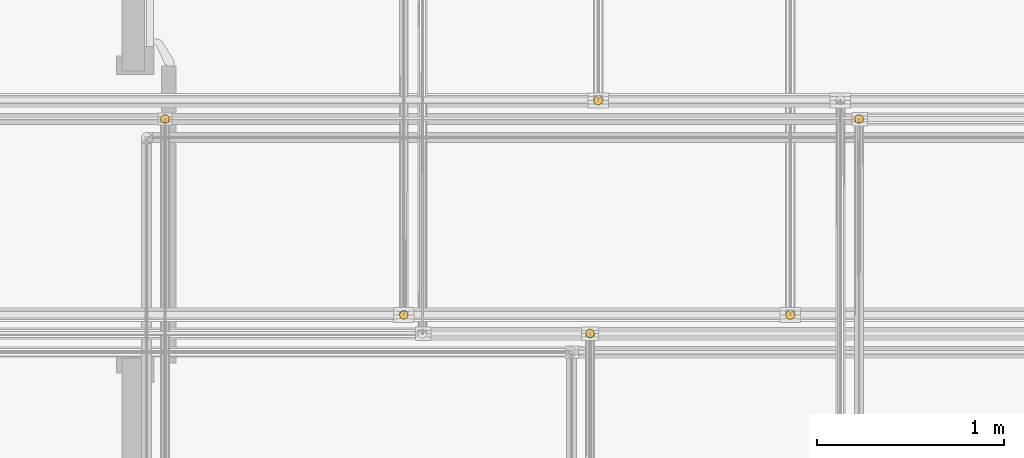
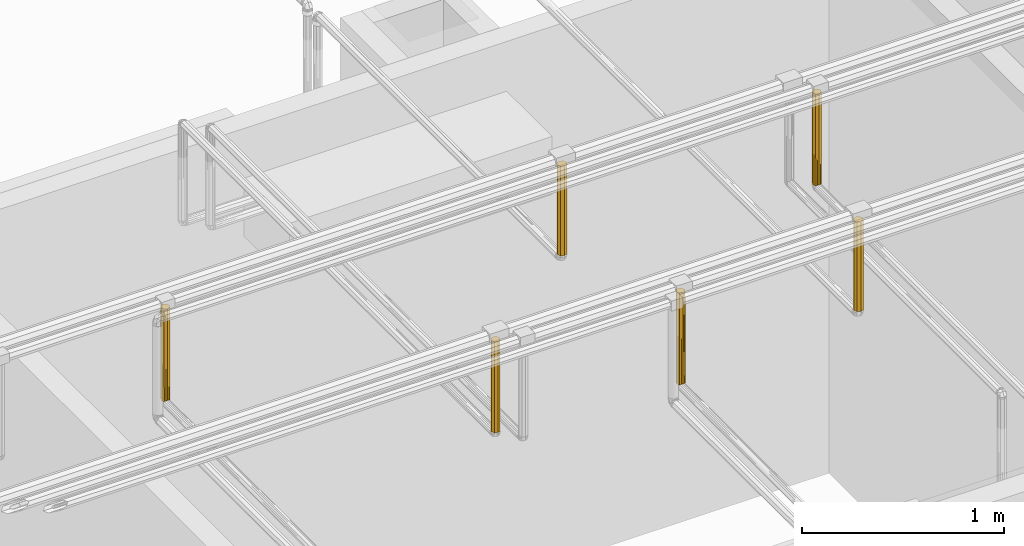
# One storey, part 168 of 652: 6 coverings.
"""IFC2X3 building model written with IfcOpenShell, lengths in millimetres."""

from ifc_helpers import new_model, entity, si_unit, converted_unit, direction, frame, origin, place, context, subcontext, project, spatial, faceted_brep, material, type_object, element, save


model = new_model("IFC2X3")

# Units and contexts
model_context = context("Model", 3, precision=0.01, world=frame((0.0, 0.0, 308426.39999999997)), true_north=direction((6.123233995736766e-17, 1.0)))
plan_context = context("Plan", 3, precision=0.01, world=frame((0.0, 0.0, 308426.39999999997)), true_north=direction((6.123233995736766e-17, 1.0)))
body_context = subcontext(model_context, "Body", "Model", "MODEL_VIEW")
ifc_project = project(units=[si_unit("LENGTHUNIT", "METRE", prefix="MILLI"), si_unit("AREAUNIT", "SQUARE_METRE"), si_unit("VOLUMEUNIT", "CUBIC_METRE"), converted_unit("PLANEANGLEUNIT", "DEGREE", entity("IfcPlaneAngleMeasure", 0.017453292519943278), si_unit("PLANEANGLEUNIT", "RADIAN"), dimensions=[0, 0, 0, 0, 0, 0, 0])], contexts=[model_context, plan_context])

# Site, building, storey
site_placement = place(None, origin())
site = spatial("IfcSite", under=ifc_project, at=site_placement, Name="Default", CompositionType="ELEMENT")
building_placement = place(site_placement, origin())
building = spatial("IfcBuilding", under=site, at=building_placement, CompositionType="ELEMENT")
storey_placement = place(building_placement, frame((0.0, 0.0, 1730.6999999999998)))
storey = spatial("IfcBuildingStorey", under=building, at=storey_placement, Name="EG_Produktion_FFB", CompositionType="ELEMENT", Elevation=1730.6999999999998)

# Coverings
ifc_material = material(Name="Dämmung - Armaflex-Schlauch")
covering_type = type_object("IfcCoveringType", Name="Rohrdämmung außen:Armaflex-Schlauch", PredefinedType="INSULATION")
covering_1_placement = place(storey_placement, frame((25784.642227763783, 60974.64222776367, 3316.3549777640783)))
element("IfcCovering", 1, at=covering_1_placement, inside=storey, type_object=covering_type, material=ifc_material, Name="Rohrdämmung außen:Armaflex-Schlauch", ObjectType="Rohrdämmung außen:Armaflex-Schlauch", PredefinedType="INSULATION", context=body_context, shape_type="Brep", body=[
    faceted_brep([(43.90036590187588, 12.755803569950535, 559.623472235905), (45.64033467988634, 16.956459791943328, 559.623472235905), (47.23325303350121, 20.80210488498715, 559.623472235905), (49.12027223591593, 25.35777223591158, 559.623472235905), (47.23325303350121, 29.913439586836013, 559.623472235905), (45.64033467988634, 33.759084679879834, 559.623472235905), (43.90036590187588, 37.95974090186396, 559.623472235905), (42.16039712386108, 42.160397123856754, 559.623472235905), (37.95974090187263, 43.90036590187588, 559.623472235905), (33.759084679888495, 45.64033467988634, 559.623472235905), (29.913439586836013, 47.233253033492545, 559.623472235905), (25.357772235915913, 49.12027223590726, 559.623472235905), (20.80210488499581, 47.23325303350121, 559.623472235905), (16.956459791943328, 45.64033467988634, 559.623472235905), (12.755803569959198, 43.90036590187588, 559.623472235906), (8.55514734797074, 42.160397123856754, 559.623472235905), (6.815178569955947, 37.95974090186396, 559.623472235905), (5.0752097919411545, 33.759084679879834, 559.623472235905), (3.482291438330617, 29.913439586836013, 559.623472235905), (1.5952722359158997, 25.35777223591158, 559.623472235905), (3.3352410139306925, 21.157116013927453, 559.623472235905), (5.075209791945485, 16.956459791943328, 559.623472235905), (6.815178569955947, 12.755803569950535, 559.623472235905), (8.55514734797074, 8.55514734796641, 559.623472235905), (12.755803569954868, 6.815178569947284, 559.623472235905), (16.956459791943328, 5.075209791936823, 559.6234722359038), (21.157116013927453, 3.3352410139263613, 559.623472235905), (25.357772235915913, 1.5952722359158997, 559.623472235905), (29.55842845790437, 3.3352410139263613, 559.623472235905), (33.759084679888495, 5.075209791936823, 559.623472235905), (37.95974090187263, 6.815178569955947, 559.623472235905), (42.16039712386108, 8.55514734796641, 559.623472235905), (25.357772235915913, 49.12027223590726, 1.595272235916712), (29.913439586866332, 47.233253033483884, 1.595272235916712), (34.46910693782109, 45.3462338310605, 1.595272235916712), (38.31475203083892, 43.753315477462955, 1.595272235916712), (42.16039712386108, 42.160397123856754, 1.595272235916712), (43.90036590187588, 37.95974090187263, 1.595272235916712), (45.64033467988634, 33.759084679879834, 1.595272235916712), (47.38030345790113, 29.558428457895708, 1.595272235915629), (49.12027223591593, 25.35777223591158, 1.595272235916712), (48.04709335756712, 20.42323069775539, 1.595272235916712), (46.97391447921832, 15.488689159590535, 1.595272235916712), (43.951164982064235, 11.448105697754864, 1.595272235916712), (40.92841548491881, 7.407522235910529, 1.595272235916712), (9.787128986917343, 7.407522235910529, 1.595272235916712), (6.764379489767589, 11.4481056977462, 1.595272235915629), (3.7416299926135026, 15.488689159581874, 1.595272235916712), (2.6684511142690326, 20.423230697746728, 1.595272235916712), (1.5952722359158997, 25.35777223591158, 1.595272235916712), (3.482291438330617, 29.913439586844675, 1.595272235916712), (5.369310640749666, 34.469106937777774, 1.595272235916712), (6.962228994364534, 38.314752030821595, 1.595272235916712), (8.55514734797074, 42.160397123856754, 1.595272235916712), (12.755803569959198, 43.90036590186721, 1.595272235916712), (16.956459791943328, 45.64033467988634, 1.595272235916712), (21.157116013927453, 47.3803034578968, 1.595272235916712), (17.047730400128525, 3.095705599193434, 5.907088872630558), (13.417429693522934, 5.251613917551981, 3.7511805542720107), (21.20275131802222, 2.345488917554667, 6.657305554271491), (25.357772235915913, 1.5952722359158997, 7.407522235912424), (29.512793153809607, 2.345488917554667, 6.657305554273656), (33.6678140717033, 3.095705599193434, 5.907088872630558), (37.29811477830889, 5.251613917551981, 3.7511805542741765)], [[[0, 1, 2, 3, 4, 5, 6, 7, 8, 9, 10, 11, 12, 13, 14, 15, 16, 17, 18, 19, 20, 21, 22, 23, 24, 25, 26, 27, 28, 29, 30, 31]], [[32, 33, 34, 35, 36, 37, 38, 39, 40, 41, 42, 43, 44, 45, 46, 47, 48, 49, 50, 51, 52, 53, 54, 55, 56]], [[49, 20, 19]], [[25, 57, 26]], [[20, 49, 48]], [[48, 21, 20]], [[45, 23, 46]], [[24, 45, 58]], [[58, 57, 25]], [[59, 60, 27]], [[47, 46, 22]], [[46, 23, 22]], [[47, 22, 21]], [[26, 57, 59]], [[23, 45, 24]], [[48, 47, 21]], [[58, 25, 24]], [[59, 27, 26]], [[60, 61, 27]], [[41, 40, 2]], [[28, 61, 62]], [[42, 0, 43]], [[63, 29, 62]], [[31, 44, 43]], [[42, 41, 1]], [[1, 41, 2]], [[27, 61, 28]], [[43, 0, 31]], [[40, 3, 2]], [[42, 1, 0]], [[29, 63, 30]], [[44, 30, 63]], [[28, 62, 29]], [[30, 44, 31]], [[11, 10, 9, 8, 7, 36, 35, 34, 33, 32]], [[6, 5, 4, 3, 40, 39, 38, 37, 36, 7]], [[19, 18, 17, 16, 15, 53, 52, 51, 50, 49]], [[14, 13, 12, 11, 32, 56, 55, 54, 53, 15]], [[44, 63, 62, 61, 60, 59, 57, 58, 45]]]),
])
covering_2_placement = place(storey_placement, frame((29135.013224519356, 59923.05472775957, 3323.371727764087)))
element("IfcCovering", 2, at=covering_2_placement, inside=storey, type_object=covering_type, material=ifc_material, Name="Rohrdämmung außen:Armaflex-Schlauch", ObjectType="Rohrdämmung außen:Armaflex-Schlauch", PredefinedType="INSULATION", context=body_context, shape_type="Brep", body=[
    faceted_brep([(52.29527223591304, 26.94527223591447, 542.5038722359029), (50.150222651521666, 32.12388003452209, 542.5038722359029), (48.58285068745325, 35.90785068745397, 542.5038722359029), (46.7266399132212, 40.38913991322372, 542.5038722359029), (44.87042913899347, 44.87042913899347, 542.5038722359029), (40.38913991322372, 46.72663991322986, 542.5038722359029), (35.90785068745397, 48.582850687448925, 542.5038722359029), (31.42656146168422, 50.43906146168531, 542.5038722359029), (26.94527223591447, 52.29527223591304, 542.5038722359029), (22.463983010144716, 50.43906146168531, 542.5038722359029), (17.982693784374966, 48.582850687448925, 542.5038722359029), (13.501404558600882, 46.7266399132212, 542.5038722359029), (9.020115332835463, 44.87042913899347, 542.5038722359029), (7.163904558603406, 40.38913991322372, 542.5038722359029), (5.307693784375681, 35.90785068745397, 542.5038722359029), (3.4514830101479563, 31.42656146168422, 542.5038722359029), (1.5952722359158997, 26.94527223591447, 542.5038722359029), (3.7403217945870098, 21.766664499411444, 542.5038722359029), (5.307693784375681, 17.982693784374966, 542.5038722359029), (7.163904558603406, 13.501404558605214, 542.5038722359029), (9.020115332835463, 9.020115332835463, 542.5038722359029), (13.501404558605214, 7.1639045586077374, 542.5038722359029), (17.982693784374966, 5.307693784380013, 542.5038722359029), (22.463983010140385, 3.4514830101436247, 542.5038722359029), (26.94527223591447, 1.5952722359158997, 542.5038722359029), (32.12387997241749, 3.7403217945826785, 542.5038722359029), (35.90785068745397, 5.307693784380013, 542.5038722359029), (40.38913991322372, 7.1639045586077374, 542.5038722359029), (44.87042913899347, 9.020115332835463, 542.5038722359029), (46.7266399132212, 13.501404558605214, 542.5038722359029), (48.58285068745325, 17.982693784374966, 542.5038722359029), (50.43906146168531, 22.463983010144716, 542.5038722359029), (31.33519376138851, 51.91227223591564, 1.595272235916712), (38.84516070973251, 47.5816860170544, 1.595272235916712), (46.355127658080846, 43.251099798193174, 1.595272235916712), (48.437184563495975, 37.53580778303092, 1.595272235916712), (50.366228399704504, 32.240540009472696, 1.595272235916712), (52.29527223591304, 26.94527223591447, 1.595272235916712), (50.15022267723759, 21.76666449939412, 1.595272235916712), (48.005173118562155, 16.588056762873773, 1.595272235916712), (44.87042913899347, 9.020115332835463, 1.595272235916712), (40.38913991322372, 7.1639045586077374, 1.595272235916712), (35.90785068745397, 5.307693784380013, 1.595272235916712), (31.42656146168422, 3.4514830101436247, 1.595272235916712), (26.94527223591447, 1.5952722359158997, 1.595272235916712), (21.766664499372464, 3.7403217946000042, 1.595272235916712), (16.588056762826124, 5.885371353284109, 1.595272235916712), (9.020115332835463, 9.020115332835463, 1.595272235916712), (7.1639045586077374, 13.501404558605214, 1.595272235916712), (5.307693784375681, 17.982693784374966, 1.595272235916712), (3.4514830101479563, 22.463983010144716, 1.595272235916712), (1.5952722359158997, 26.94527223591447, 1.595272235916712), (3.524316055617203, 32.240539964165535, 1.595272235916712), (4.565344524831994, 35.09818601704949, 1.595272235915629), (6.050380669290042, 39.17464290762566, 1.595272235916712), (7.535416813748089, 43.251099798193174, 1.595272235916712), (15.045383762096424, 47.5816860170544, 1.595272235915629), (22.55535071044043, 51.91227223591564, 1.595272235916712), (29.148570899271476, 52.19934072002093, 1.8823407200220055), (26.94527223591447, 52.29527223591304, 1.978272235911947), (24.74197357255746, 52.19934072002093, 1.8823407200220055)], [[[0, 1, 2, 3, 4, 5, 6, 7, 8, 9, 10, 11, 12, 13, 14, 15, 16, 17, 18, 19, 20, 21, 22, 23, 24, 25, 26, 27, 28, 29, 30, 31]], [[32, 33, 34, 35, 36, 37, 38, 39, 40, 41, 42, 43, 44, 45, 46, 47, 48, 49, 50, 51, 52, 53, 54, 55, 56, 57]], [[3, 2, 35]], [[35, 2, 36]], [[36, 2, 1, 0]], [[58, 7, 32]], [[33, 32, 6]], [[35, 34, 3]], [[8, 58, 59]], [[33, 6, 5, 4]], [[7, 6, 32]], [[34, 4, 3]], [[33, 4, 34]], [[36, 0, 37]], [[7, 58, 8]], [[57, 10, 9]], [[54, 53, 14]], [[9, 60, 57]], [[10, 57, 56]], [[54, 14, 13]], [[51, 16, 15]], [[53, 15, 14]], [[13, 55, 54]], [[56, 12, 11, 10]], [[15, 53, 52, 51]], [[60, 8, 59]], [[12, 56, 55]], [[12, 55, 13]], [[8, 60, 9]], [[44, 24, 23, 22, 21, 20, 47, 46, 45]], [[19, 18, 17, 16, 51, 50, 49, 48, 47, 20]], [[37, 0, 31, 30, 29, 28, 40, 39, 38]], [[27, 26, 25, 24, 44, 43, 42, 41, 40, 28]], [[57, 60, 59, 58, 32]]]),
])
covering_3_placement = place(storey_placement, frame((28063.320549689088, 59824.6422277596, 3316.3549777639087)))
element("IfcCovering", 3, at=covering_3_placement, inside=storey, type_object=covering_type, material=ifc_material, Name="Rohrdämmung außen:Armaflex-Schlauch", ObjectType="Rohrdämmung außen:Armaflex-Schlauch", PredefinedType="INSULATION", context=body_context, shape_type="Brep", body=[
    faceted_brep([(43.90036590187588, 12.755803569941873, 555.508672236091), (45.64033467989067, 16.956459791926, 555.508672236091), (47.21923512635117, 20.76826266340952, 555.5086722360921), (49.12027223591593, 25.357772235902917, 555.5086722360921), (47.21923512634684, 29.947281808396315, 555.5086722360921), (45.64033467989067, 33.759084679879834, 555.5086722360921), (43.900365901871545, 37.9597409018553, 555.5086722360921), (42.16039712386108, 42.16039712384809, 555.5086722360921), (37.95974090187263, 43.90036590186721, 555.5086722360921), (33.759084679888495, 45.640334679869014, 555.5086722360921), (29.94728180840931, 47.21923512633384, 555.5086722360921), (25.357772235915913, 49.1202722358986, 555.5086722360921), (20.768262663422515, 47.21923512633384, 555.5086722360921), (16.956459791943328, 45.640334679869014, 555.5086722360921), (12.755803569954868, 43.90036590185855, 555.5086722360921), (8.55514734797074, 42.16039712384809, 555.5086722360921), (6.815178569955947, 37.95974090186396, 555.5086722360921), (5.0752097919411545, 33.759084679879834, 555.5086722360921), (3.4963093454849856, 29.947281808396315, 555.5086722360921), (1.5952722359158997, 25.357772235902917, 555.5086722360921), (3.3352410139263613, 21.15711601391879, 555.5086722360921), (5.0752097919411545, 16.956459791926, 555.508672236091), (6.815178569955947, 12.75580356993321, 555.508672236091), (8.55514734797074, 8.555147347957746, 555.508672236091), (12.755803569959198, 6.815178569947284, 555.508672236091), (16.956459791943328, 5.075209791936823, 555.508672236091), (21.157116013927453, 3.3352410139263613, 555.508672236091), (25.357772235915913, 1.5952722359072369, 555.508672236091), (29.55842845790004, 3.3352410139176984, 555.508672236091), (33.759084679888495, 5.075209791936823, 555.508672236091), (37.959740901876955, 6.815178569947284, 555.508672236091), (42.16039712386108, 8.555147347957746, 555.508672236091), (40.92841548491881, 7.407522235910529, 1.595272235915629), (9.787128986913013, 7.407522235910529, 1.595272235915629), (6.764379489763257, 11.448105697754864, 1.595272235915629), (3.7416299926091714, 15.488689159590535, 1.595272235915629), (2.6684511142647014, 20.42323069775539, 1.595272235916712), (1.5952722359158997, 25.35777223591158, 1.595272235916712), (3.496309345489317, 29.947281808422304, 1.595272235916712), (5.397346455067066, 34.53679138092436, 1.595272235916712), (6.976246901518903, 38.34859425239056, 1.595272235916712), (8.55514734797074, 42.160397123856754, 1.595272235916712), (12.75580356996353, 43.90036590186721, 1.595272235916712), (16.95645979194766, 45.640334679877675, 1.595272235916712), (21.157116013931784, 47.38030345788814, 1.595272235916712), (25.357772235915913, 49.12027223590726, 1.595272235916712), (29.94728180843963, 47.21923512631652, 1.595272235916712), (34.53679138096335, 45.3181980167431, 1.595272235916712), (38.34859425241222, 43.7392975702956, 1.595272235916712), (42.16039712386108, 42.160397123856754, 1.595272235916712), (43.900365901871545, 37.95974090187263, 1.595272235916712), (45.64033467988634, 33.759084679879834, 1.595272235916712), (47.38030345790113, 29.558428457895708, 1.595272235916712), (49.12027223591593, 25.35777223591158, 1.595272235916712), (48.04709335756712, 20.42323069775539, 1.595272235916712), (46.97391447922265, 15.488689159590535, 1.595272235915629), (43.95116498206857, 11.448105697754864, 1.595272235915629), (17.04773040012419, 3.095705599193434, 5.907088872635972), (13.417429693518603, 5.251613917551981, 3.751180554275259), (21.20275131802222, 2.345488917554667, 6.657305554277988), (25.357772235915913, 1.5952722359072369, 7.407522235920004), (29.512793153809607, 2.345488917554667, 6.657305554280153), (33.66781407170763, 3.095705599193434, 5.907088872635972), (37.29811477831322, 5.251613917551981, 3.751180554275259)], [[[0, 1, 2, 3, 4, 5, 6, 7, 8, 9, 10, 11, 12, 13, 14, 15, 16, 17, 18, 19, 20, 21, 22, 23, 24, 25, 26, 27, 28, 29, 30, 31]], [[32, 33, 34, 35, 36, 37, 38, 39, 40, 41, 42, 43, 44, 45, 46, 47, 48, 49, 50, 51, 52, 53, 54, 55, 56]], [[37, 20, 19]], [[25, 57, 26]], [[20, 37, 36]], [[36, 21, 20]], [[33, 23, 34]], [[24, 33, 58]], [[58, 57, 25]], [[59, 60, 27]], [[35, 34, 22]], [[34, 23, 22]], [[35, 22, 21]], [[26, 57, 59]], [[23, 33, 24]], [[36, 35, 21]], [[58, 25, 24]], [[59, 27, 26]], [[60, 61, 27]], [[53, 3, 54]], [[28, 61, 62]], [[55, 0, 56]], [[63, 29, 62]], [[31, 32, 56]], [[55, 54, 1]], [[1, 54, 3, 2]], [[27, 61, 28]], [[56, 0, 31]], [[55, 1, 0]], [[29, 63, 30]], [[32, 30, 63]], [[28, 62, 29]], [[30, 32, 31]], [[11, 10, 9, 8, 7, 49, 48, 47, 46, 45]], [[6, 5, 4, 3, 53, 52, 51, 50, 49, 7]], [[19, 18, 17, 16, 15, 41, 40, 39, 38, 37]], [[14, 13, 12, 11, 45, 44, 43, 42, 41, 15]], [[62, 61, 60, 59, 57, 58, 33, 32, 63]]]),
])
covering_4_placement = place(storey_placement, frame((27064.64222776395, 59924.642227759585, 3316.3549777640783)))
element("IfcCovering", 4, at=covering_4_placement, inside=storey, type_object=covering_type, material=ifc_material, Name="Rohrdämmung außen:Armaflex-Schlauch", ObjectType="Rohrdämmung außen:Armaflex-Schlauch", PredefinedType="INSULATION", context=body_context, shape_type="Brep", body=[
    faceted_brep([(43.90036590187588, 12.755803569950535, 551.3938722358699), (45.64033467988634, 16.956459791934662, 551.3938722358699), (47.38030345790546, 21.15711601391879, 551.3938722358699), (49.12027223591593, 25.35777223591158, 551.3938722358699), (47.38030345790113, 29.558428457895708, 551.3938722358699), (45.64033467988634, 33.759084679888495, 551.3938722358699), (43.90036590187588, 37.95974090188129, 551.3938722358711), (42.16039712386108, 42.160397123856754, 551.3938722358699), (37.959740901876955, 43.90036590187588, 551.3938722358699), (33.759084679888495, 45.640334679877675, 551.3938722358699), (29.55842845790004, 47.38030345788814, 551.3938722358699), (25.357772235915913, 49.12027223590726, 551.3938722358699), (21.157116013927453, 47.3803034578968, 551.3938722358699), (16.956459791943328, 45.640334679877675, 551.3938722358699), (12.755803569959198, 43.90036590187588, 551.3938722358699), (8.55514734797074, 42.160397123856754, 551.3938722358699), (6.815178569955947, 37.95974090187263, 551.3938722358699), (5.075209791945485, 33.759084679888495, 551.3938722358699), (3.5105370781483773, 29.98163059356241, 551.3938722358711), (1.5952722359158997, 25.35777223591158, 551.3938722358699), (3.5105370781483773, 20.73391387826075, 551.3938722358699), (5.075209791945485, 16.956459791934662, 551.3938722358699), (6.815178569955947, 12.755803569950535, 551.3938722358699), (8.55514734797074, 8.55514734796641, 551.3938722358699), (12.755803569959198, 6.815178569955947, 551.3938722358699), (16.956459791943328, 5.075209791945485, 551.3938722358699), (21.157116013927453, 3.335241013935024, 551.3938722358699), (25.357772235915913, 1.5952722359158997, 551.3938722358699), (29.98163059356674, 3.510537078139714, 551.3938722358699), (33.759084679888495, 5.075209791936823, 551.3938722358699), (37.95974090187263, 6.815178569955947, 551.3938722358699), (42.16039712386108, 8.55514734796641, 551.3938722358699), (47.205007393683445, 20.73391387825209, 1.5952722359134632), (45.289742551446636, 16.110055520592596, 1.5952722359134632), (43.72506983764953, 12.33260143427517, 1.5952722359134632), (42.16039712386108, 8.55514734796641, 1.5952722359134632), (37.95974090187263, 6.815178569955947, 1.5952722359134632), (33.759084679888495, 5.075209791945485, 1.5952722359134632), (29.55842845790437, 3.335241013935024, 1.5952722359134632), (25.357772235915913, 1.5952722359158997, 1.5952722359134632), (20.733913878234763, 3.51053707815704, 1.5952722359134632), (16.110055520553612, 5.425801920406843, 1.5952722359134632), (12.332601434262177, 6.990474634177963, 1.5952722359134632), (8.55514734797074, 8.55514734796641, 1.5952722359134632), (6.815178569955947, 12.755803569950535, 1.5952722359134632), (5.075209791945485, 16.956459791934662, 1.5952722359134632), (3.3352410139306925, 21.15711601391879, 1.5952722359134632), (1.5952722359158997, 25.35777223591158, 1.5952722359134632), (2.6684511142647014, 30.292313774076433, 1.5952722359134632), (3.7416299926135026, 35.22685531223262, 1.5952722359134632), (6.764379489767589, 39.26743877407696, 1.5952722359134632), (9.787128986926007, 43.30802223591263, 1.5952722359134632), (40.92841548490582, 43.30802223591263, 1.5952722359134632), (43.951164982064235, 39.26743877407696, 1.595272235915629), (46.97391447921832, 35.22685531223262, 1.5952722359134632), (48.04709335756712, 30.292313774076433, 1.5952722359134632), (49.12027223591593, 25.35777223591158, 1.5952722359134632), (33.66781407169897, 47.61983887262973, 5.907088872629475), (37.29811477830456, 45.46393055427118, 3.7511805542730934), (29.512793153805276, 48.3700555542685, 6.657305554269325), (25.357772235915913, 49.12027223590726, 7.407522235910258), (21.20275131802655, 48.3700555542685, 6.657305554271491), (17.047730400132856, 47.61983887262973, 5.907088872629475), (13.417429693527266, 45.46393055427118, 3.7511805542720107)], [[[0, 1, 2, 3, 4, 5, 6, 7, 8, 9, 10, 11, 12, 13, 14, 15, 16, 17, 18, 19, 20, 21, 22, 23, 24, 25, 26, 27, 28, 29, 30, 31]], [[32, 33, 34, 35, 36, 37, 38, 39, 40, 41, 42, 43, 44, 45, 46, 47, 48, 49, 50, 51, 52, 53, 54, 55, 56]], [[56, 4, 3]], [[9, 57, 10]], [[4, 56, 55]], [[55, 5, 4]], [[52, 7, 53]], [[8, 52, 58]], [[58, 57, 9]], [[59, 60, 11]], [[54, 53, 6]], [[53, 7, 6]], [[54, 6, 5]], [[10, 57, 59]], [[7, 52, 8]], [[55, 54, 5]], [[58, 9, 8]], [[59, 11, 10]], [[60, 61, 11]], [[47, 19, 48]], [[12, 61, 62]], [[49, 16, 50]], [[63, 13, 62]], [[15, 51, 50]], [[49, 48, 17]], [[17, 48, 19, 18]], [[11, 61, 12]], [[50, 16, 15]], [[49, 17, 16]], [[13, 63, 14]], [[51, 14, 63]], [[12, 62, 13]], [[14, 51, 15]], [[39, 27, 26, 25, 24, 23, 43, 42, 41, 40]], [[22, 21, 20, 19, 47, 46, 45, 44, 43, 23]], [[56, 3, 2, 1, 0, 31, 35, 34, 33, 32]], [[30, 29, 28, 27, 39, 38, 37, 36, 35, 31]], [[52, 51, 63, 62, 61, 60, 59, 57, 58]]]),
])
covering_5_placement = place(storey_placement, frame((29504.64222776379, 60974.64222776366, 3316.3549777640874)))
element("IfcCovering", 5, at=covering_5_placement, inside=storey, type_object=covering_type, material=ifc_material, Name="Rohrdämmung außen:Armaflex-Schlauch", ObjectType="Rohrdämmung außen:Armaflex-Schlauch", PredefinedType="INSULATION", context=body_context, shape_type="Brep", body=[
    faceted_brep([(43.90036590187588, 12.755803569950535, 555.5086722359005), (45.64033467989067, 16.956459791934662, 555.5086722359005), (47.21923512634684, 20.76826266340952, 555.5086722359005), (49.12027223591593, 25.35777223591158, 555.5086722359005), (47.21923512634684, 29.94728180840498, 555.5086722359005), (45.64033467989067, 33.759084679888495, 555.5086722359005), (43.90036590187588, 37.95974090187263, 555.5086722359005), (42.16039712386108, 42.160397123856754, 555.5086722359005), (37.95974090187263, 43.90036590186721, 555.5086722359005), (33.75908467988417, 45.640334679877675, 555.5086722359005), (29.947281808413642, 47.219235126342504, 555.5086722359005), (25.357772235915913, 49.12027223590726, 555.5086722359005), (20.768262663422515, 47.219235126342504, 555.5086722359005), (16.956459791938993, 45.640334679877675, 555.5086722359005), (12.755803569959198, 43.90036590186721, 555.5086722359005), (8.55514734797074, 42.160397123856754, 555.5086722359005), (6.815178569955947, 37.95974090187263, 555.5086722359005), (5.0752097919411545, 33.759084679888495, 555.5086722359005), (3.4963093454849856, 29.947281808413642, 555.5086722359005), (1.5952722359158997, 25.35777223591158, 555.5086722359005), (3.3352410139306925, 21.157116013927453, 555.5086722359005), (5.0752097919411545, 16.956459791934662, 555.5086722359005), (6.8151785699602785, 12.755803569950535, 555.5086722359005), (8.55514734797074, 8.55514734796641, 555.5086722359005), (12.755803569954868, 6.815178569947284, 555.5086722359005), (16.956459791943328, 5.075209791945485, 555.5086722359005), (21.157116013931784, 3.335241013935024, 555.5086722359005), (25.357772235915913, 1.5952722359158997, 555.5086722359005), (29.55842845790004, 3.335241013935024, 555.5086722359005), (33.759084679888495, 5.075209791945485, 555.5086722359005), (37.95974090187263, 6.815178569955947, 555.5086722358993), (42.16039712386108, 8.55514734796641, 555.5086722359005), (46.97391447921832, 15.488689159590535, 1.595272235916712), (43.951164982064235, 11.4481056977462, 1.595272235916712), (40.92841548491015, 7.407522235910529, 1.595272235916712), (9.787128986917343, 7.407522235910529, 1.595272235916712), (6.764379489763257, 11.4481056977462, 1.595272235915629), (3.7416299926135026, 15.488689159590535, 1.595272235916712), (2.6684511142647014, 20.423230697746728, 1.595272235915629), (1.5952722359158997, 25.35777223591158, 1.595272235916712), (3.496309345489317, 29.947281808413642, 1.595272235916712), (5.397346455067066, 34.53679138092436, 1.595272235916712), (6.976246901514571, 38.34859425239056, 1.595272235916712), (8.55514734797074, 42.160397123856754, 1.595272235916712), (12.755803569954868, 43.90036590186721, 1.595272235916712), (16.956459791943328, 45.640334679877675, 1.595272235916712), (21.157116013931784, 47.3803034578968, 1.595272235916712), (25.357772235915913, 49.12027223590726, 1.595272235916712), (29.94728180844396, 47.21923512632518, 1.595272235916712), (34.53679138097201, 45.318198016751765, 1.595272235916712), (38.34859425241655, 43.73929757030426, 1.595272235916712), (42.16039712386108, 42.160397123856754, 1.595272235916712), (43.90036590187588, 37.95974090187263, 1.595272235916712), (45.64033467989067, 33.759084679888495, 1.595272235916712), (47.38030345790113, 29.558428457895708, 1.595272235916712), (49.12027223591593, 25.35777223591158, 1.595272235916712), (48.04709335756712, 20.423230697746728, 1.595272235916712), (17.047730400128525, 3.095705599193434, 5.907088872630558), (13.417429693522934, 5.251613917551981, 3.7511805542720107), (21.20275131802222, 2.345488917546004, 6.657305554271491), (25.357772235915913, 1.5952722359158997, 7.407522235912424), (29.512793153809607, 2.345488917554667, 6.657305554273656), (33.66781407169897, 3.095705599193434, 5.907088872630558), (37.29811477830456, 5.251613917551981, 3.7511805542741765)], [[[0, 1, 2, 3, 4, 5, 6, 7, 8, 9, 10, 11, 12, 13, 14, 15, 16, 17, 18, 19, 20, 21, 22, 23, 24, 25, 26, 27, 28, 29, 30, 31]], [[32, 33, 34, 35, 36, 37, 38, 39, 40, 41, 42, 43, 44, 45, 46, 47, 48, 49, 50, 51, 52, 53, 54, 55, 56]], [[39, 20, 19]], [[25, 57, 26]], [[20, 39, 38]], [[38, 21, 20]], [[35, 23, 36]], [[24, 35, 58]], [[58, 57, 25]], [[59, 60, 27]], [[37, 36, 22]], [[36, 23, 22]], [[37, 22, 21]], [[26, 57, 59]], [[23, 35, 24]], [[38, 37, 21]], [[58, 25, 24]], [[59, 27, 26]], [[60, 61, 27]], [[55, 3, 56]], [[28, 61, 62]], [[32, 0, 33]], [[63, 29, 62]], [[31, 34, 33]], [[32, 56, 1]], [[1, 56, 3, 2]], [[27, 61, 28]], [[33, 0, 31]], [[32, 1, 0]], [[29, 63, 30]], [[34, 30, 63]], [[28, 62, 29]], [[30, 34, 31]], [[11, 10, 9, 8, 7, 51, 50, 49, 48, 47]], [[6, 5, 4, 3, 55, 54, 53, 52, 51, 7]], [[19, 18, 17, 16, 15, 43, 42, 41, 40, 39]], [[14, 13, 12, 11, 47, 46, 45, 44, 43, 15]], [[34, 63, 62, 61, 60, 59, 57, 58, 35]]]),
])
covering_6_placement = place(storey_placement, frame((28105.367160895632, 61073.05472776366, 3323.371727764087)))
element("IfcCovering", 6, at=covering_6_placement, inside=storey, type_object=covering_type, material=ifc_material, Name="Rohrdämmung außen:Armaflex-Schlauch", ObjectType="Rohrdämmung außen:Armaflex-Schlauch", PredefinedType="INSULATION", context=body_context, shape_type="Brep", body=[
    faceted_brep([(52.29527223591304, 26.94527223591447, 542.5038722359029), (50.15022265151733, 32.12388003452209, 542.5038722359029), (48.58285068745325, 35.90785068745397, 542.5038722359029), (46.7266399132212, 40.38913991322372, 542.5038722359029), (44.87042913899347, 44.87042913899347, 542.5038722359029), (40.38913991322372, 46.7266399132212, 542.5038722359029), (35.90785068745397, 48.582850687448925, 542.5038722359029), (31.42656146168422, 50.43906146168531, 542.5038722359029), (26.94527223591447, 52.29527223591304, 542.5038722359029), (22.463983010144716, 50.43906146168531, 542.5038722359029), (17.982693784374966, 48.582850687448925, 542.5038722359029), (13.501404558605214, 46.72663991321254, 542.5038722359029), (9.020115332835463, 44.87042913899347, 542.5038722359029), (7.1639045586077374, 40.38913991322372, 542.5038722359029), (5.307693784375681, 35.90785068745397, 542.5038722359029), (3.4514830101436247, 31.42656146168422, 542.5038722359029), (1.5952722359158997, 26.94527223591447, 542.5038722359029), (3.7403217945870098, 21.766664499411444, 542.5038722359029), (5.30769378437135, 17.982693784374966, 542.5038722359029), (7.1639045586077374, 13.501404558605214, 542.5038722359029), (9.020115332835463, 9.020115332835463, 542.5038722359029), (13.501404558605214, 7.163904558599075, 542.5038722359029), (17.982693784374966, 5.307693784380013, 542.5038722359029), (22.463983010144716, 3.4514830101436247, 542.5038722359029), (26.94527223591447, 1.5952722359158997, 542.5038722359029), (32.12387997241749, 3.7403217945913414, 542.5038722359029), (35.90785068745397, 5.307693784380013, 542.5038722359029), (40.38913991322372, 7.1639045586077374, 542.5038722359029), (44.87042913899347, 9.020115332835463, 542.5038722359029), (46.7266399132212, 13.501404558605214, 542.5038722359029), (48.58285068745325, 17.982693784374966, 542.5038722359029), (50.43906146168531, 22.463983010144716, 542.5038722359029), (31.33519376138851, 51.91227223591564, 1.595272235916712), (38.84516070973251, 47.5816860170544, 1.595272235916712), (46.355127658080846, 43.251099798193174, 1.595272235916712), (48.437184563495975, 37.53580778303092, 1.595272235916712), (50.366228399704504, 32.240540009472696, 1.595272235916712), (52.29527223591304, 26.94527223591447, 1.595272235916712), (50.15022267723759, 21.76666449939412, 1.595272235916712), (48.005173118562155, 16.588056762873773, 1.595272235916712), (44.87042913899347, 9.020115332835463, 1.595272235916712), (40.38913991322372, 7.1639045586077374, 1.595272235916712), (35.90785068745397, 5.307693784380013, 1.595272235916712), (31.42656146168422, 3.4514830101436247, 1.595272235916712), (26.94527223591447, 1.5952722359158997, 1.595272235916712), (21.766664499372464, 3.740321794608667, 1.595272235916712), (16.588056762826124, 5.885371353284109, 1.595272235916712), (9.020115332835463, 9.020115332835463, 1.595272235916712), (7.1639045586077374, 13.501404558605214, 1.595272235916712), (5.307693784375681, 17.982693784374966, 1.595272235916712), (3.4514830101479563, 22.463983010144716, 1.595272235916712), (1.5952722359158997, 26.94527223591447, 1.595272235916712), (3.5243160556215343, 32.240539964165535, 1.595272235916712), (4.565344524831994, 35.09818601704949, 1.595272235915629), (6.0503806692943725, 39.17464290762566, 1.595272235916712), (7.535416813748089, 43.251099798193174, 1.595272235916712), (15.045383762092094, 47.5816860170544, 1.595272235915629), (22.55535071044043, 51.91227223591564, 1.595272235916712), (29.148570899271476, 52.19934072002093, 1.8823407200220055), (26.94527223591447, 52.29527223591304, 1.978272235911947), (24.74197357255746, 52.19934072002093, 1.8823407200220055)], [[[0, 1, 2, 3, 4, 5, 6, 7, 8, 9, 10, 11, 12, 13, 14, 15, 16, 17, 18, 19, 20, 21, 22, 23, 24, 25, 26, 27, 28, 29, 30, 31]], [[32, 33, 34, 35, 36, 37, 38, 39, 40, 41, 42, 43, 44, 45, 46, 47, 48, 49, 50, 51, 52, 53, 54, 55, 56, 57]], [[3, 2, 35]], [[35, 2, 36]], [[36, 2, 1, 0]], [[58, 7, 32]], [[33, 32, 6]], [[35, 34, 3]], [[8, 58, 59]], [[33, 6, 5, 4]], [[7, 6, 32]], [[34, 4, 3]], [[33, 4, 34]], [[36, 0, 37]], [[7, 58, 8]], [[57, 10, 9]], [[54, 53, 14]], [[9, 60, 57]], [[10, 57, 56]], [[54, 14, 13]], [[51, 16, 15]], [[53, 15, 14]], [[13, 55, 54]], [[56, 12, 11, 10]], [[15, 53, 52, 51]], [[60, 8, 59]], [[12, 56, 55]], [[12, 55, 13]], [[8, 60, 9]], [[44, 24, 23, 22, 21, 20, 47, 46, 45]], [[19, 18, 17, 16, 51, 50, 49, 48, 47, 20]], [[37, 0, 31, 30, 29, 28, 40, 39, 38]], [[27, 26, 25, 24, 44, 43, 42, 41, 40, 28]], [[57, 60, 59, 58, 32]]]),
])

save(model, "model.ifc")
